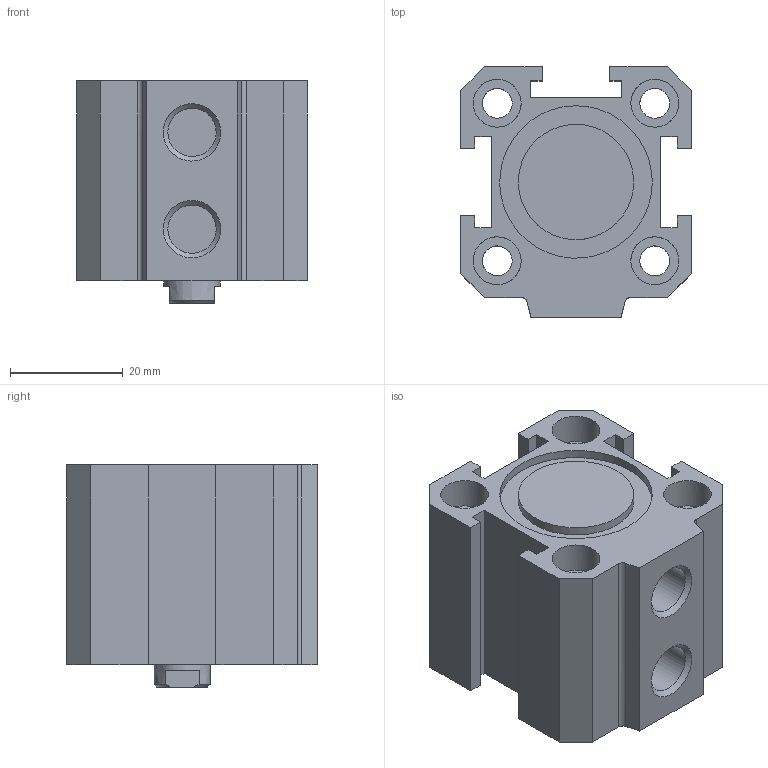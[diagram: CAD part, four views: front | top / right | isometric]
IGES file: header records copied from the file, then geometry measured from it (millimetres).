
Global section: file name: 1512_25_0005; native system: Autodesk Inventor 2014; preprocessor: unknown; author: A. Manieri; date: 20160907.110148; units: millimetre
Bounding box: 41 x 44.5 x 39.5 mm (x, y, z)
Volume: 43704.6 mm3; surface area: 19427.3 mm2
Topology: 2 solids, 2 shells, 92 faces, 236 edges, 166 vertices
Faces by surface type: bspline 92
